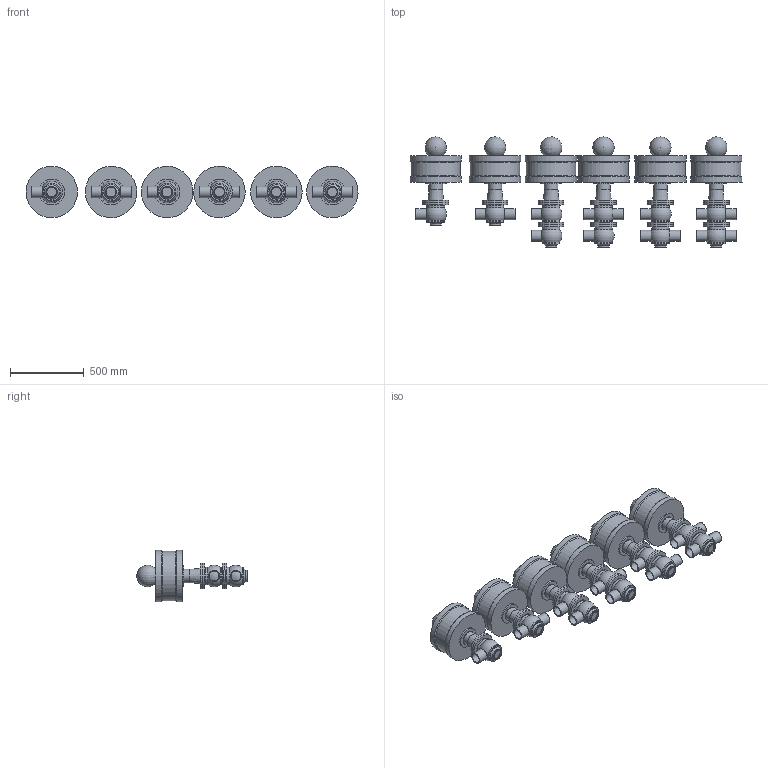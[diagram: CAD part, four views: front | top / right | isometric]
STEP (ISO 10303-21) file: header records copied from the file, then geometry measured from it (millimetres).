
FILE_DESCRIPTION(/* description */ (''),/* implementation_level */ '2;1');
FILE_NAME(/* name */ 'C:\Users\marz-m\Desktop\PDF\BBZQ 3D STEP\BBZQ-DN76.1-CIL.320.stp',/* time_stamp */ '2018-04-13T15:22:10+02:00',/* author */ ('marz-m'),/* organization */ (''),/* preprocessor_version */ 'ST-DEVELOPER v17',/* originating_system */ 'Autodesk Inventor 2018',/* authorisation */ '');
FILE_SCHEMA (('AUTOMOTIVE_DESIGN { 1 0 10303 214 3 1 1 }'));
Length unit declared in the file: millimetre
Products named in the file (8): BBZQ-DN76.1-CIL.320; assemblaggio dn80 per cil 207-360; CILINDRO 320; SAGOMA-GIOTTO-; COR-INF-L-BBZQ-DN76.1; COR-SUP-L-BBZQ-DN76.1; COR-SUP-T-BBZQ-DN76.1; COR-INF-T-BBZQ-DN76.1
Assembly tree (28 placements, depth 2):
  BBZQ-DN76.1-CIL.320
    assemblaggio dn80 per cil 207-360  x6
    COR-INF-L-BBZQ-DN76.1  x3
    COR-INF-T-BBZQ-DN76.1  x3
    COR-SUP-L-BBZQ-DN76.1  x2
    COR-SUP-T-BBZQ-DN76.1  x2
    CILINDRO 320  x6
    SAGOMA-GIOTTO-  x6
Bounding box: 2245.41 x 744.47 x 348 mm (x, y, z)
Volume: 137288108.4 mm3; surface area: 5080751 mm2
Topology: 28 solids, 28 shells, 326 faces, 802 edges, 602 vertices
Faces by surface type: cylinder 124, plane 115, torus 32, sphere 31, cone 24
Full cylindrical faces by diameter (mm): 25.4 x6, 66.1 x21, 69.8 x6, 76.1 x21, 92 x6, 120 x20, 141 x6, 174 x20, 334 x6, 348 x12
Entity records: 3544 total; most frequent: DIRECTION 697, CARTESIAN_POINT 549, ORIENTED_EDGE 474, AXIS2_PLACEMENT_3D 327, EDGE_CURVE 237, CIRCLE 194, VERTEX_POINT 179, EDGE_LOOP 122
